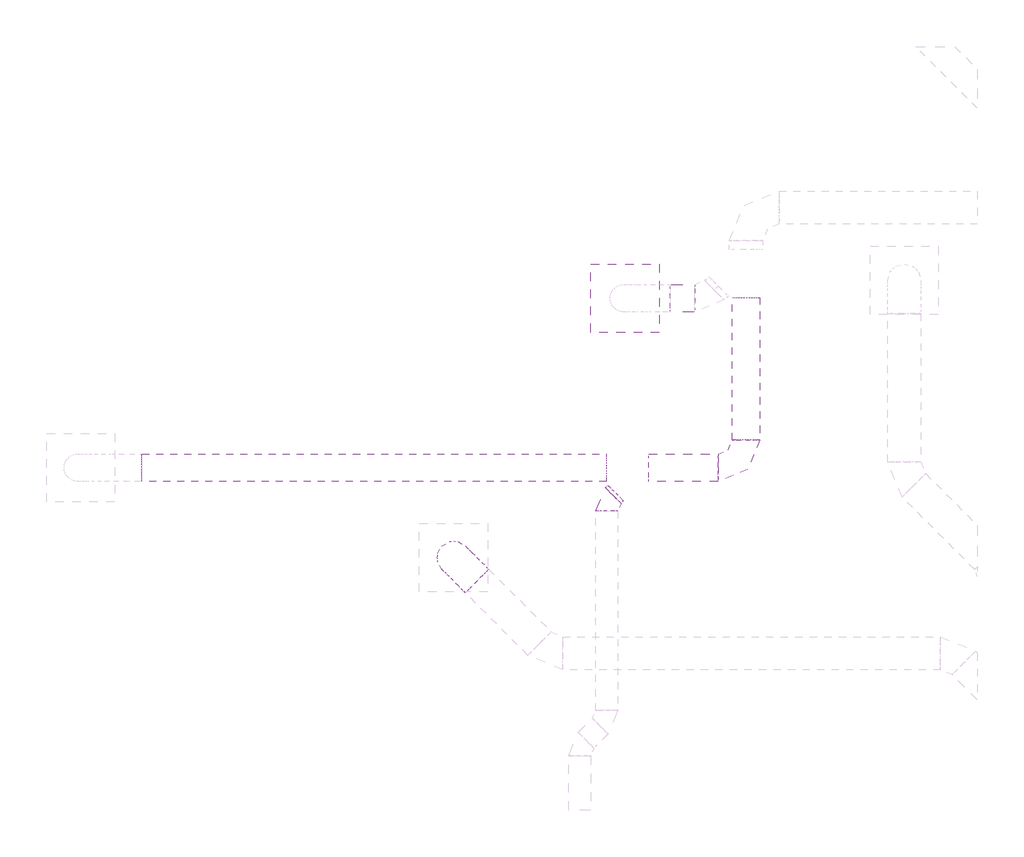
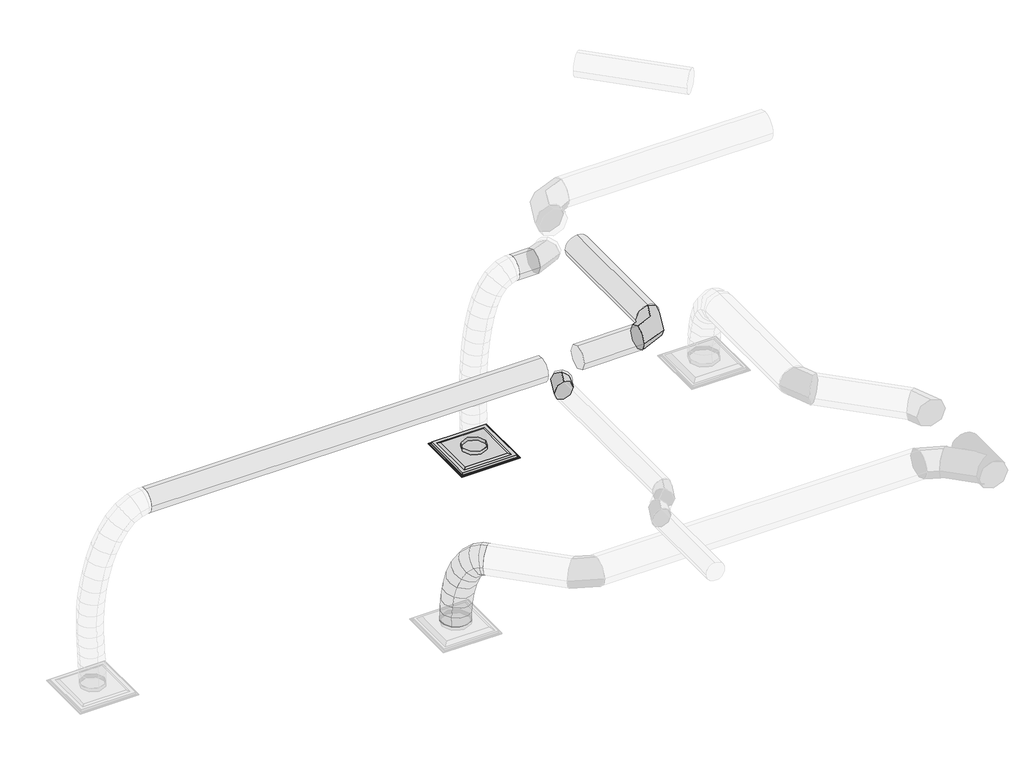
# One storey, part 13 of 33: 6 duct segments, 2 duct fittings, 1 air terminal.
"""IFC4 building model written with IfcOpenShell, lengths in millimetres."""

from ifc_helpers import new_model, si_unit, point, frame, frame_2d, origin, place, context, project, spatial, circle_curve, ellipse_curve, trimmed, segment, composite_curve, outline, extrude, transform, mapped, element, save
from ifc_brep_helpers import plane_surface, cylinder_surface, advanced_brep
from components import par_aa_10_24x24_32668ffe, round_elbow_1_d_6fec3262, round_elbow_1_d_ab3aa7ba

model = new_model("IFC4")

# Units and contexts
model_context = context("Model", 3, world=origin())
ifc_project = project(units=[si_unit("LENGTHUNIT", "METRE", prefix="MILLI")], contexts=[model_context])

# Site, building, storey
site = spatial("IfcSite", under=ifc_project)
building = spatial("IfcBuilding", under=site)
storey = spatial("IfcBuildingStorey", under=building, Name="T.O. SLAB - 1ST", Elevation=-25.4)

# Air terminal
placement = place(None, origin())
par_aa_10_24x24_shape = par_aa_10_24x24_32668ffe(model_context)
element("IfcAirTerminal", 1, ObjectType="Titus-Round_Neck_Exhaust_Diffuser-PAR_Surface_Mount : PAR AA-10_24x24", at=placement, inside=storey, context=model_context, shape_type="MappedRepresentation", body=[
    mapped(par_aa_10_24x24_shape, transform((5465.4477832, 30561.4824969, 2717.8), x_axis=(1.0, 0.0, 0.0), y_axis=(0.0, -1.0, 0.0), z_axis=(0.0, 0.0, -1.0))),
])

# Duct fittings
round_elbow_1_d_shape = round_elbow_1_d_6fec3262(model_context)
element("IfcDuctFitting", 2, ObjectType="Round Elbow : 1 D", at=placement, inside=storey, context=model_context, shape_type="MappedRepresentation", body=[
    mapped(round_elbow_1_d_shape, transform((6578.2480791, 29002.8769704, 4648.2), x_axis=(1.0, 0.0, 0.0), y_axis=(0.0, 1.0, 0.0), z_axis=(0.0, 0.0, 1.0))),
])
round_elbow_1_d_2_shape = round_elbow_1_d_ab3aa7ba(model_context)
element("IfcDuctFitting", 3, ObjectType="Round Elbow : 1 D", at=placement, inside=storey, context=model_context, shape_type="MappedRepresentation", body=[
    mapped(round_elbow_1_d_2_shape, transform((5297.7037075, 28686.6211243, 4648.2), x_axis=(-0.707106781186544, -0.7071067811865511, 0.0), y_axis=(0.7071067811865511, -0.707106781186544, 0.0), z_axis=(0.0, 0.0, 1.0))),
])

# Duct segments
element("IfcDuctSegment", 4, ObjectType="Flex - Round", at=placement, inside=storey, context=model_context, shape_type="AdvancedBrep", body=[
    advanced_brep(
    [(3997.5760353, 27851.5789578, 3530.6), (4105.3391088, 27959.3420313, 3378.2), (4213.1021822, 28067.1051047, 3530.6), (4105.3391088, 27959.3420313, 3683.0), (3973.3476754, 27875.8073178, 3530.6), (4100.7561115, 27963.9250285, 3378.2), (4188.873832, 28091.333455, 3530.6), (4061.4653958, 28003.2157442, 3683.0), (3782.0501691, 28067.1049893, 2806.7), (3782.0502126, 28282.6311362, 2806.7), (3997.5763595, 28282.6310927, 2806.7), (3997.5763161, 28067.1049458, 2806.7), (3935.1618141, 27913.9931862, 3510.2335123), (4096.9526464, 27967.7284944, 3376.171416), (4150.687987, 28129.5193071, 3510.233521), (3988.8971547, 28075.7839989, 3644.2956172), (3885.7972479, 27963.3577711, 3454.3086531), (4074.8301056, 27989.8510436, 3351.1089051), (4101.3234325, 28178.8838803, 3454.3086751), (3912.2905749, 28152.3906078, 3557.5084231), (3848.0251484, 28001.1298971, 3370.5873216), (4052.6749399, 28012.0062248, 3302.0022895), (4063.5513387, 28216.6560005, 3370.5873563), (3858.9015472, 28205.7796728, 3439.1723884), (3820.3883303, 28028.7667455, 3266.8314174), (4031.5298531, 28033.1513348, 3222.6180568), (4035.9145222, 28244.2928474, 3266.8314578), (3824.7729994, 28239.9082581, 3311.0448185), (3801.429608, 28047.7254981, 3150.8028365), (4015.2844254, 28049.3967885, 3123.1950105), (4016.9557999, 28263.2516001, 3150.8028767), (3803.1009825, 28261.5803097, 3178.4107027), (3789.6917968, 28059.4633358, 3030.2634752), (4004.687952, 28059.9932858, 3014.3764148), (4005.217988, 28274.9894384, 3030.2635095), (3790.2218328, 28274.4594884, 3046.1505698), (3783.717712, 28065.4374393, 2912.9752305), (3999.1550668, 28065.5261884, 2905.7501701), (3999.2439026, 28280.9635425, 2912.9752522), (3783.8065478, 28280.8747935, 2920.2003125), (3782.0501691, 28067.1049893, 2810.080948), (3997.5763161, 28067.1049458, 2808.3347287), (3997.5763595, 28282.6310927, 2810.0809547), (3782.0502126, 28282.6311362, 2811.8271741)],
    [
        (0, 1, circle_curve(frame((4105.3391088, 27959.3420313, 3530.6), z_axis=(0.7071067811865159, -0.7071067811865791, 0.0), x_axis=(-0.7071067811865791, -0.7071067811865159, 0.0)), 152.4)),
        (1, 2, circle_curve(frame((4105.3391088, 27959.3420313, 3530.6), z_axis=(0.7071067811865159, -0.7071067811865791, 0.0), x_axis=(-0.7071067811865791, -0.7071067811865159, 0.0)), 152.4)),
        (2, 3, circle_curve(frame((4105.3391088, 27959.3420313, 3530.6), z_axis=(0.7071067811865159, -0.7071067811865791, 0.0), x_axis=(-0.7071067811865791, -0.7071067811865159, 0.0)), 152.4)),
        (3, 0, circle_curve(frame((4105.3391088, 27959.3420313, 3530.6), z_axis=(0.7071067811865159, -0.7071067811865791, 0.0), x_axis=(-0.7071067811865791, -0.7071067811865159, 0.0)), 152.4)),
        (0, 4),
        (4, 5, ellipse_curve(frame((4081.1107537, 27983.5703864, 3530.6), z_axis=(0.6956418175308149, -0.6956418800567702, 0.17934557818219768), x_axis=(0.126816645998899, -0.1268163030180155, -0.9837861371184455)), 154.9117173, 152.4)),
        (5, 1),
        (5, 6, ellipse_curve(frame((4081.1107537, 27983.5703864, 3530.6), z_axis=(0.6956418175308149, -0.6956418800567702, 0.17934557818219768), x_axis=(0.126816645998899, -0.1268163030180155, -0.9837861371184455)), 154.9117173, 152.4)),
        (6, 2),
        (6, 7, ellipse_curve(frame((4081.1107537, 27983.5703864, 3530.6), z_axis=(0.6956418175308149, -0.6956418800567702, 0.17934557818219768), x_axis=(0.126816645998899, -0.1268163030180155, -0.9837861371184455)), 154.9117173, 152.4)),
        (7, 3),
        (7, 4, ellipse_curve(frame((4081.1107537, 27983.5703864, 3530.6), z_axis=(0.6956418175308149, -0.6956418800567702, 0.17934557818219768), x_axis=(0.126816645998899, -0.1268163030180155, -0.9837861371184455)), 154.9117173, 152.4)),
        (8, 9, circle_curve(frame((3889.8132643, 28174.868041, 2806.7), z_axis=(0.0, 0.0, -1.0), x_axis=(-0.7071069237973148, -0.7071066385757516, 0.0)), 152.4)),
        (9, 10, circle_curve(frame((3889.8132643, 28174.868041, 2806.7), z_axis=(0.0, 0.0, -1.0), x_axis=(-0.7071069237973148, -0.7071066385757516, 0.0)), 152.4)),
        (10, 11, circle_curve(frame((3889.8132643, 28174.868041, 2806.7), z_axis=(0.0, 0.0, -1.0), x_axis=(-0.7071069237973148, -0.7071066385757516, 0.0)), 152.4)),
        (11, 8, circle_curve(frame((3889.8132643, 28174.868041, 2806.7), z_axis=(0.0, 0.0, -1.0), x_axis=(-0.7071069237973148, -0.7071066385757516, 0.0)), 152.4)),
        (4, 12),
        (12, 13, ellipse_curve(frame((4042.9249005, 28021.7562467, 3510.2335166), z_axis=(0.6143352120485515, -0.6143353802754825, 0.4951608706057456), x_axis=(0.3501317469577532, -0.3501314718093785, -0.8688013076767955)), 154.3069738, 152.4)),
        (13, 5),
        (13, 14, ellipse_curve(frame((4042.9249005, 28021.7562467, 3510.2335166), z_axis=(0.6143352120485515, -0.6143353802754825, 0.4951608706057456), x_axis=(0.3501317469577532, -0.3501314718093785, -0.8688013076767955)), 154.3069738, 152.4)),
        (14, 6),
        (14, 15, ellipse_curve(frame((4042.9249005, 28021.7562467, 3510.2335166), z_axis=(0.6143352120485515, -0.6143353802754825, 0.4951608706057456), x_axis=(0.3501317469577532, -0.3501314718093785, -0.8688013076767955)), 154.3069738, 152.4)),
        (15, 7),
        (15, 12, ellipse_curve(frame((4042.9249005, 28021.7562467, 3510.2335166), z_axis=(0.6143352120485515, -0.6143353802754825, 0.4951608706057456), x_axis=(0.3501317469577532, -0.3501314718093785, -0.8688013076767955)), 154.3069738, 152.4)),
        (12, 16),
        (16, 17, ellipse_curve(frame((3993.5603402, 28071.1208257, 3454.3086641), z_axis=(0.47242263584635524, -0.47242287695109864, 0.7440655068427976), x_axis=(0.5261338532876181, -0.5261336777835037, -0.6681066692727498)), 154.4659914, 152.4)),
        (17, 13),
        (17, 18, ellipse_curve(frame((3993.5603402, 28071.1208257, 3454.3086641), z_axis=(0.47242263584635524, -0.47242287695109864, 0.7440655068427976), x_axis=(0.5261338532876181, -0.5261336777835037, -0.6681066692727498)), 154.4659914, 152.4)),
        (18, 14),
        (18, 19, ellipse_curve(frame((3993.5603402, 28071.1208257, 3454.3086641), z_axis=(0.47242263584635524, -0.47242287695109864, 0.7440655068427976), x_axis=(0.5261338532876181, -0.5261336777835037, -0.6681066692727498)), 154.4659914, 152.4)),
        (19, 15),
        (19, 16, ellipse_curve(frame((3993.5603402, 28071.1208257, 3454.3086641), z_axis=(0.47242263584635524, -0.47242287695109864, 0.7440655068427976), x_axis=(0.5261338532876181, -0.5261336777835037, -0.6681066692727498)), 154.4659914, 152.4)),
        (16, 20),
        (20, 21, ellipse_curve(frame((3955.7882435, 28108.8929488, 3370.587339), z_axis=(0.3165074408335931, -0.3165077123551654, 0.894229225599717), x_axis=(0.63231556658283, -0.6323155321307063, -0.44760930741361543)), 153.2252532, 152.4)),
        (21, 17),
        (21, 22, ellipse_curve(frame((3955.7882435, 28108.8929488, 3370.587339), z_axis=(0.3165074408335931, -0.3165077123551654, 0.894229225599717), x_axis=(0.63231556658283, -0.6323155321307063, -0.44760930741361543)), 153.2252532, 152.4)),
        (22, 18),
        (22, 23, ellipse_curve(frame((3955.7882435, 28108.8929488, 3370.587339), z_axis=(0.3165074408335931, -0.3165077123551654, 0.894229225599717), x_axis=(0.63231556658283, -0.6323155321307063, -0.44760930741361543)), 153.2252532, 152.4)),
        (23, 19),
        (23, 20, ellipse_curve(frame((3955.7882435, 28108.8929488, 3370.587339), z_axis=(0.3165074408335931, -0.3165077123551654, 0.894229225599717), x_axis=(0.63231556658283, -0.6323155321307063, -0.44760930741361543)), 153.2252532, 152.4)),
        (20, 24),
        (24, 25, ellipse_curve(frame((3928.1514262, 28136.5297965, 3266.8314376), z_axis=(0.2046869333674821, -0.20468719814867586, 0.9571867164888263), x_axis=(0.676833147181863, -0.6768332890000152, -0.28947122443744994)), 152.7384317, 152.4)),
        (25, 21),
        (25, 26, ellipse_curve(frame((3928.1514262, 28136.5297965, 3266.8314376), z_axis=(0.2046869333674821, -0.20468719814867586, 0.9571867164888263), x_axis=(0.676833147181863, -0.6768332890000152, -0.28947122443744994)), 152.7384317, 152.4)),
        (26, 22),
        (26, 27, ellipse_curve(frame((3928.1514262, 28136.5297965, 3266.8314376), z_axis=(0.2046869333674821, -0.20468719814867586, 0.9571867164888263), x_axis=(0.676833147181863, -0.6768332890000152, -0.28947122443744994)), 152.7384317, 152.4)),
        (27, 23),
        (27, 24, ellipse_curve(frame((3928.1514262, 28136.5297965, 3266.8314376), z_axis=(0.2046869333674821, -0.20468719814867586, 0.9571867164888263), x_axis=(0.676833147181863, -0.6768332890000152, -0.28947122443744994)), 152.7384317, 152.4)),
        (24, 28),
        (28, 29, ellipse_curve(frame((3909.1927039, 28155.4885491, 3150.8028566), z_axis=(0.12796462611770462, -0.1279648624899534, 0.9834887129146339), x_axis=(0.6954313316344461, -0.695431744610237, -0.18096947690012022)), 152.5552627, 152.4)),
        (29, 25),
        (29, 30, ellipse_curve(frame((3909.1927039, 28155.4885491, 3150.8028566), z_axis=(0.12796462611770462, -0.1279648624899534, 0.9834887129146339), x_axis=(0.6954313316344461, -0.695431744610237, -0.18096947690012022)), 152.5552627, 152.4)),
        (30, 26),
        (30, 31, ellipse_curve(frame((3909.1927039, 28155.4885491, 3150.8028566), z_axis=(0.12796462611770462, -0.1279648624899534, 0.9834887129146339), x_axis=(0.6954313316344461, -0.695431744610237, -0.18096947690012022)), 152.5552627, 152.4)),
        (31, 27),
        (31, 28, ellipse_curve(frame((3909.1927039, 28155.4885491, 3150.8028566), z_axis=(0.12796462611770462, -0.1279648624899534, 0.9834887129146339), x_axis=(0.6954313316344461, -0.695431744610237, -0.18096947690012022)), 152.5552627, 152.4)),
        (28, 32),
        (32, 33, ellipse_curve(frame((3897.4548924, 28167.2263871, 3030.2634923), z_axis=(0.07367404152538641, -0.07367422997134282, 0.9945573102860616), x_axis=(0.7032577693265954, -0.7032586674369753, -0.10419096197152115)), 152.4803801, 152.4)),
        (33, 29),
        (33, 34, ellipse_curve(frame((3897.4548924, 28167.2263871, 3030.2634923), z_axis=(0.07367404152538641, -0.07367422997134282, 0.9945573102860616), x_axis=(0.7032577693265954, -0.7032586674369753, -0.10419096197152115)), 152.4803801, 152.4)),
        (34, 30),
        (34, 35, ellipse_curve(frame((3897.4548924, 28167.2263871, 3030.2634923), z_axis=(0.07367404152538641, -0.07367422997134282, 0.9945573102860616), x_axis=(0.7032577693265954, -0.7032586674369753, -0.10419096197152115)), 152.4803801, 152.4)),
        (35, 31),
        (35, 32, ellipse_curve(frame((3897.4548924, 28167.2263871, 3030.2634923), z_axis=(0.07367404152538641, -0.07367422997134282, 0.9945573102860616), x_axis=(0.7032577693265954, -0.7032586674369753, -0.10419096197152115)), 152.4803801, 152.4)),
        (32, 36),
        (36, 37, ellipse_curve(frame((3891.4808073, 28173.2004909, 2912.9752413), z_axis=(0.03351283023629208, -0.03351294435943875, 0.9988762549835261), x_axis=(0.706311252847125, -0.7063130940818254, -0.047394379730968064)), 152.4457387, 152.4)),
        (37, 33),
        (37, 38, ellipse_curve(frame((3891.4808073, 28173.2004909, 2912.9752413), z_axis=(0.03351283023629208, -0.03351294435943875, 0.9988762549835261), x_axis=(0.706311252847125, -0.7063130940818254, -0.047394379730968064)), 152.4457387, 152.4)),
        (38, 34),
        (38, 39, ellipse_curve(frame((3891.4808073, 28173.2004909, 2912.9752413), z_axis=(0.03351283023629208, -0.03351294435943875, 0.9988762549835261), x_axis=(0.706311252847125, -0.7063130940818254, -0.047394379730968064)), 152.4457387, 152.4)),
        (39, 35),
        (39, 36, ellipse_curve(frame((3891.4808073, 28173.2004909, 2912.9752413), z_axis=(0.03351283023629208, -0.03351294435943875, 0.9988762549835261), x_axis=(0.706311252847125, -0.7063130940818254, -0.047394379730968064)), 152.4457387, 152.4)),
        (36, 40),
        (40, 41, ellipse_curve(frame((3889.8132643, 28174.868041, 2810.0809514), z_axis=(0.008101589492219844, -0.008101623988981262, 0.9999343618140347), x_axis=(0.7070588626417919, -0.7070618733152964, -0.011457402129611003)), 152.4100039, 152.4)),
        (41, 37),
        (41, 42, ellipse_curve(frame((3889.8132643, 28174.868041, 2810.0809514), z_axis=(0.008101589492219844, -0.008101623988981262, 0.9999343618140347), x_axis=(0.7070588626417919, -0.7070618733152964, -0.011457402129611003)), 152.4100039, 152.4)),
        (42, 38),
        (42, 43, ellipse_curve(frame((3889.8132643, 28174.868041, 2810.0809514), z_axis=(0.008101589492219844, -0.008101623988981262, 0.9999343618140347), x_axis=(0.7070588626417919, -0.7070618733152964, -0.011457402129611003)), 152.4100039, 152.4)),
        (43, 39),
        (43, 40, ellipse_curve(frame((3889.8132643, 28174.868041, 2810.0809514), z_axis=(0.008101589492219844, -0.008101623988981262, 0.9999343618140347), x_axis=(0.7070588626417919, -0.7070618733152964, -0.011457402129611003)), 152.4100039, 152.4)),
        (40, 8),
        (11, 41),
        (10, 42),
        (9, 43),
    ],
    [
        plane_surface(frame((4105.3391088, 27959.3420313, 3683.0), z_axis=(0.7071067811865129, -0.7071067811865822, 0.0), x_axis=(0.7071067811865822, 0.7071067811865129, 0.0))),
        cylinder_surface(frame((4105.3391088, 27959.3420313, 3530.6), z_axis=(0.7071067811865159, -0.7071067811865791, 0.0), x_axis=(-0.7071067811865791, -0.7071067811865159, 0.0)), 152.4),
        plane_surface(frame((3889.8132643, 28022.468041, 2806.7), z_axis=(0.0, 0.0, -1.0), x_axis=(-1.0, 0.0, 0.0))),
        cylinder_surface(frame((4081.1107537, 27983.5703864, 3530.6), z_axis=(0.6616187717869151, -0.6616188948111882, 0.35287538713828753), x_axis=(-0.7071068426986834, -0.7071067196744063, -1.5858626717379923e-08)), 152.4),
        cylinder_surface(frame((4042.9249005, 28021.7562467, 3510.2335166), z_axis=(0.551867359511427, -0.5518675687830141, 0.6252076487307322), x_axis=(-0.7071068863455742, -0.7071066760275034, -5.103849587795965e-08)), 152.4),
        cylinder_surface(frame((3993.5603402, 28071.1208257, 3454.3086641), z_axis=(0.380340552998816, -0.38034081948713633, 0.8430195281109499), x_axis=(-0.7071069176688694, -0.7071066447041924, -1.003726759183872e-07)), 152.4),
        cylinder_surface(frame((3955.7882435, 28108.8929488, 3370.587339), z_axis=(0.24926498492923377, -0.2492652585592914, 0.9358064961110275), x_axis=(-0.7071069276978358, -0.7071066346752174, -1.2870753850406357e-07)), 152.4),
        cylinder_surface(frame((3928.1514262, 28136.5297965, 3266.8314376), z_axis=(0.1592018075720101, -0.15920206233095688, 0.9743251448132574), x_axis=(-0.7071069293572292, -0.7071066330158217, -1.3646743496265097e-07)), 152.4),
        cylinder_surface(frame((3909.1927039, 28155.4885491, 3150.8028566), z_axis=(0.09646697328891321, -0.09646719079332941, 0.9906503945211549), x_axis=(-0.7071069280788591, -0.7071066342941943, -1.2664235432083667e-07)), 152.4),
        cylinder_surface(frame((3897.4548924, 28167.2263871, 3030.2634923), z_axis=(0.05080343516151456, -0.050803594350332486, 0.9974156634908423), x_axis=(-0.707106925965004, -0.7071066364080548, -9.810652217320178e-08)), 152.4),
        cylinder_surface(frame((3891.4808073, 28173.2004909, 2912.9752413), z_axis=(0.01620211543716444, -0.016202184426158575, 0.9997374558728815), x_axis=(-0.7071069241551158, -0.7071066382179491, -4.4161383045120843e-08)), 152.4),
        cylinder_surface(frame((3889.8132643, 28174.868041, 2810.0809514), z_axis=(0.0, 0.0, 1.0), x_axis=(-0.7071069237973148, -0.7071066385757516, 0.0)), 152.4),
    ],
    [
        (0, [[1, 2, 3, 4]]),
        (1, [[-1, 5, 6, 7]]),
        (1, [[-2, -7, 8, 9]]),
        (1, [[-3, -9, 10, 11]]),
        (1, [[-4, -11, 12, -5]]),
        (2, [[13, 14, 15, 16]]),
        (3, [[-6, 17, 18, 19]]),
        (3, [[-8, -19, 20, 21]]),
        (3, [[-10, -21, 22, 23]]),
        (3, [[-12, -23, 24, -17]]),
        (4, [[-18, 25, 26, 27]]),
        (4, [[-20, -27, 28, 29]]),
        (4, [[-22, -29, 30, 31]]),
        (4, [[-24, -31, 32, -25]]),
        (5, [[-26, 33, 34, 35]]),
        (5, [[-28, -35, 36, 37]]),
        (5, [[-30, -37, 38, 39]]),
        (5, [[-32, -39, 40, -33]]),
        (6, [[-34, 41, 42, 43]]),
        (6, [[-36, -43, 44, 45]]),
        (6, [[-38, -45, 46, 47]]),
        (6, [[-40, -47, 48, -41]]),
        (7, [[-42, 49, 50, 51]]),
        (7, [[-44, -51, 52, 53]]),
        (7, [[-46, -53, 54, 55]]),
        (7, [[-48, -55, 56, -49]]),
        (8, [[-50, 57, 58, 59]]),
        (8, [[-52, -59, 60, 61]]),
        (8, [[-54, -61, 62, 63]]),
        (8, [[-56, -63, 64, -57]]),
        (9, [[-58, 65, 66, 67]]),
        (9, [[-60, -67, 68, 69]]),
        (9, [[-62, -69, 70, 71]]),
        (9, [[-64, -71, 72, -65]]),
        (10, [[-66, 73, 74, 75]]),
        (10, [[-68, -75, 76, 77]]),
        (10, [[-70, -77, 78, 79]]),
        (10, [[-72, -79, 80, -73]]),
        (11, [[-74, 81, -16, 82]]),
        (11, [[-76, -82, -15, 83]]),
        (11, [[-78, -83, -14, 84]]),
        (11, [[-80, -84, -13, -81]]),
    ],
),
])
element("IfcDuctSegment", 5, ObjectType="Taps", at=placement, inside=storey, context=model_context, shape_type="SweptSolid", body=[
    extrude(outline(composite_curve([segment(trimmed(circle_curve(frame_2d((4648.2, 6578.2480791)), 127.0), [point((4648.2, 6451.2480791))], [point((4521.2, 6578.2480791))], False, "CARTESIAN"), True, "CONTINUOUS"), segment(trimmed(circle_curve(frame_2d((4648.2, 6578.2480791)), 127.0), [point((4521.2, 6578.2480791))], [point((4648.2, 6705.2480791))], False, "CARTESIAN"), True, "CONTINUOUS"), segment(trimmed(circle_curve(frame_2d((4648.2, 6578.2480791)), 127.0), [point((4648.2, 6705.2480791))], [point((4775.2, 6578.2480791))], False, "CARTESIAN"), True, "CONTINUOUS"), segment(trimmed(circle_curve(frame_2d((4648.2, 6578.2480791)), 127.0), [point((4775.2, 6578.2480791))], [point((4648.2, 6451.2480791))], False, "CARTESIAN"), True, "CONTINUOUS")], self_intersect=False)), frame((0.0, 29256.8769704, 0.0), z_axis=(0.0, 1.0, 0.0), x_axis=(0.0, 0.0, 1.0)), (0.0, 0.0, 1.0), 1309.9484494),
])
element("IfcDuctSegment", 6, ObjectType="Taps", at=placement, inside=storey, context=model_context, shape_type="SweptSolid", body=[
    extrude(outline(composite_curve([segment(trimmed(circle_curve(frame_2d((29002.8769704, 4648.2)), 127.0), [point((29129.8769704, 4648.2))], [point((29002.8769704, 4521.2))], False, "CARTESIAN"), True, "CONTINUOUS"), segment(trimmed(circle_curve(frame_2d((29002.8769704, 4648.2)), 127.0), [point((29002.8769704, 4521.2))], [point((28875.8769704, 4648.2))], False, "CARTESIAN"), True, "CONTINUOUS"), segment(trimmed(circle_curve(frame_2d((29002.8769704, 4648.2)), 127.0), [point((28875.8769704, 4648.2))], [point((29002.8769704, 4775.2))], False, "CARTESIAN"), True, "CONTINUOUS"), segment(trimmed(circle_curve(frame_2d((29002.8769704, 4648.2)), 127.0), [point((29002.8769704, 4775.2))], [point((29129.8769704, 4648.2))], False, "CARTESIAN"), True, "CONTINUOUS")], self_intersect=False)), frame((1025.2754556, 0.0, 0.0), z_axis=(1.0, 0.0, 0.0), x_axis=(0.0, 1.0, 0.0)), (0.0, 0.0, 1.0), 4267.2),
])
element("IfcDuctSegment", 7, ObjectType="Taps", at=placement, inside=storey, context=model_context, shape_type="SweptSolid", body=[
    extrude(outline(composite_curve([segment(trimmed(circle_curve(frame_2d((30561.4823623, 4648.2)), 127.0), [point((30688.4823623, 4648.2))], [point((30561.4823623, 4521.2))], False, "CARTESIAN"), True, "CONTINUOUS"), segment(trimmed(circle_curve(frame_2d((30561.4823623, 4648.2)), 127.0), [point((30561.4823623, 4521.2))], [point((30434.4823623, 4648.2))], False, "CARTESIAN"), True, "CONTINUOUS"), segment(trimmed(circle_curve(frame_2d((30561.4823623, 4648.2)), 127.0), [point((30434.4823623, 4648.2))], [point((30561.4823623, 4775.2))], False, "CARTESIAN"), True, "CONTINUOUS"), segment(trimmed(circle_curve(frame_2d((30561.4823623, 4648.2)), 127.0), [point((30561.4823623, 4775.2))], [point((30688.4823623, 4648.2))], False, "CARTESIAN"), True, "CONTINUOUS")], self_intersect=False)), frame((5882.3757183, 0.0, 0.0), z_axis=(1.0, 0.0, 0.0), x_axis=(0.0, 1.0, 0.0)), (0.0, 0.0, 1.0), 224.9897552),
])
element("IfcDuctSegment", 8, ObjectType="Taps", at=placement, inside=storey, context=model_context, shape_type="SweptSolid", body=[
    extrude(outline(composite_curve([segment(trimmed(circle_curve(frame_2d((29002.8769704, 4648.2)), 127.0), [point((29129.8769704, 4648.2))], [point((29002.8769704, 4521.2))], False, "CARTESIAN"), True, "CONTINUOUS"), segment(trimmed(circle_curve(frame_2d((29002.8769704, 4648.2)), 127.0), [point((29002.8769704, 4521.2))], [point((28875.8769704, 4648.2))], False, "CARTESIAN"), True, "CONTINUOUS"), segment(trimmed(circle_curve(frame_2d((29002.8769704, 4648.2)), 127.0), [point((28875.8769704, 4648.2))], [point((29002.8769704, 4775.2))], False, "CARTESIAN"), True, "CONTINUOUS"), segment(trimmed(circle_curve(frame_2d((29002.8769704, 4648.2)), 127.0), [point((29002.8769704, 4775.2))], [point((29129.8769704, 4648.2))], False, "CARTESIAN"), True, "CONTINUOUS")], self_intersect=False)), frame((5681.4436515, 0.0, 0.0), z_axis=(1.0, 0.0, 0.0), x_axis=(0.0, 1.0, 0.0)), (0.0, 0.0, 1.0), 642.8044276),
])
element("IfcDuctSegment", 9, ObjectType="Taps", at=placement, inside=storey, context=model_context, shape_type="SweptSolid", body=[
    extrude(outline(composite_curve([segment(trimmed(circle_curve(frame_2d((0.0, -101.6)), 101.6), [point((-101.6, -101.6))], [point((0.0, 0.0))], False, "CARTESIAN"), True, "CONTINUOUS"), segment(trimmed(circle_curve(frame_2d((0.0, -101.6)), 101.6), [point((0.0, 0.0))], [point((101.6, -101.6))], False, "CARTESIAN"), True, "CONTINUOUS"), segment(trimmed(circle_curve(frame_2d((0.0, -101.6)), 101.6), [point((101.6, -101.6))], [point((0.0, -203.2))], False, "CARTESIAN"), True, "CONTINUOUS"), segment(trimmed(circle_curve(frame_2d((0.0, -101.6)), 101.6), [point((0.0, -203.2))], [point((-101.6, -101.6))], False, "CARTESIAN"), True, "CONTINUOUS")], self_intersect=False)), frame((5357.2196096, 28746.1370264, 4546.6), z_axis=(0.707106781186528, 0.7071067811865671, 0.0), x_axis=(0.7071067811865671, -0.707106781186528, 0.0)), (0.0, 0.0, 1.0), 31.0799884),
])

save(model, "model.ifc")
